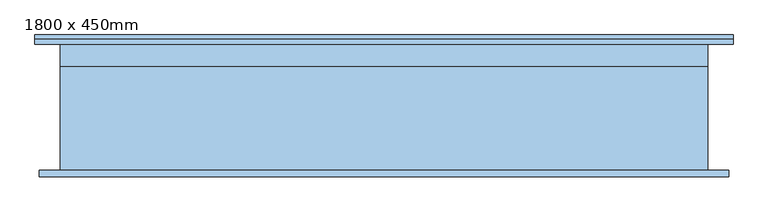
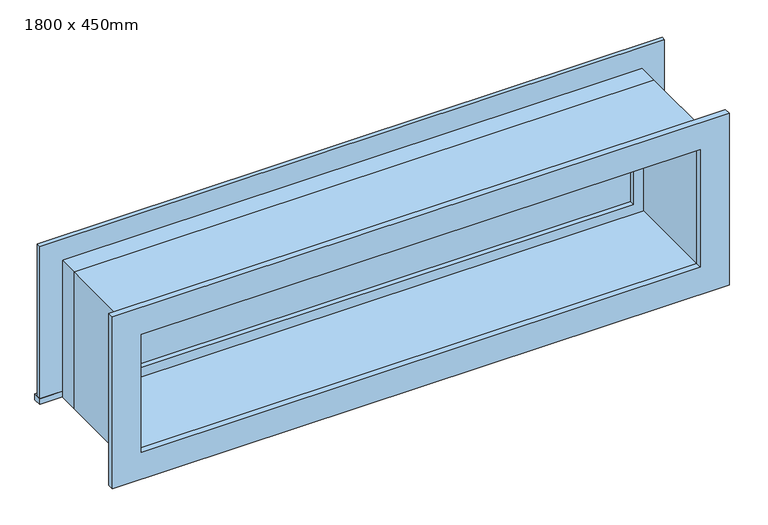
"""IFC4 building model written with IfcOpenShell, lengths in millimetres: window geometry, Podelne : 1800 x 450mm."""

from ifc_helpers import new_model, si_unit, frame, origin, place, context, project, spatial, polyline, outline, extrude, source, transform, mapped, element, save


def window_1800_x_450mm_4e5ac976(model_context):
    return source(origin(), model_context, "Body", "SweptSolid", [
        extrude(outline(polyline([(-1008.05, 200.7), (931.85, 200.7), (931.85, 175.0), (-1008.05, 175.0), (-1008.05, 200.7)])), frame((0.0, 0.0, 2159.0), z_axis=(0.0, 0.0, 1.0), x_axis=(1.0, 0.0, 0.0)), (0.0, 0.0, 1.0), 19.05),
        extrude(outline(polyline([(2589.95, -919.05), (2589.95, 842.85), (2178.05, 842.85), (2178.05, 931.85), (2678.95, 931.85), (2678.95, -1008.05), (2178.05, -1008.05), (2178.05, -919.05), (2589.95, -919.05)])), frame((0.0, 175.0, 0.0), z_axis=(0.0, 1.0, 0.0), x_axis=(0.0, 0.0, 1.0)), (0.0, 0.0, 1.0), 13.0),
        extrude(outline(polyline([(2666.25, 919.15), (2666.25, -995.35), (2101.75, -995.35), (2101.75, 919.15), (2666.25, 919.15)]), holes=[polyline([(2577.25, 830.15), (2190.75, 830.15), (2190.75, -906.35), (2577.25, -906.35), (2577.25, 830.15)])]), frame((0.0, -194.0, 0.0), z_axis=(0.0, 1.0, 0.0), x_axis=(0.0, 0.0, 1.0)), (0.0, 0.0, 1.0), 19.0),
        extrude(outline(polyline([(798.4, 127.425), (-874.6, 127.425), (-874.6, 140.125), (798.4, 140.125), (798.4, 127.425)])), frame((0.0, 0.0, 2222.5), z_axis=(0.0, 0.0, 1.0), x_axis=(1.0, 0.0, 0.0)), (0.0, 0.0, 1.0), 323.0),
        extrude(outline(polyline([(2589.95, -919.05), (2178.05, -919.05), (2178.05, 842.85), (2589.95, 842.85), (2589.95, -919.05)]), holes=[polyline([(2545.5, -874.6), (2545.5, 798.4), (2222.5, 798.4), (2222.5, -874.6), (2545.5, -874.6)])]), frame((0.0, 111.55, 0.0), z_axis=(0.0, 1.0, 0.0), x_axis=(0.0, 0.0, 1.0)), (0.0, 0.0, 1.0), 44.45),
        extrude(outline(polyline([(2609.0, -938.1), (2159.0, -938.1), (2159.0, 861.9), (2609.0, 861.9), (2609.0, -938.1)]), holes=[polyline([(2577.25, -906.35), (2577.25, 830.15), (2190.75, 830.15), (2190.75, -906.35), (2577.25, -906.35)])]), frame((0.0, -175.0, 0.0), z_axis=(0.0, 1.0, 0.0), x_axis=(0.0, 0.0, 1.0)), (0.0, 0.0, 1.0), 286.55),
        extrude(outline(polyline([(2609.0, 861.9), (2609.0, -938.1), (2159.0, -938.1), (2159.0, 861.9), (2609.0, 861.9)]), holes=[polyline([(2589.95, 842.85), (2178.05, 842.85), (2178.05, -919.05), (2589.95, -919.05), (2589.95, 842.85)])]), frame((0.0, 111.55, 0.0), z_axis=(0.0, 1.0, 0.0), x_axis=(0.0, 0.0, 1.0)), (0.0, 0.0, 1.0), 63.45),
    ])


if __name__ == "__main__":
    model = new_model("IFC4")
    model_context = context("Model", 3, world=origin())
    ifc_project = project(units=[si_unit("LENGTHUNIT", "METRE", prefix="MILLI")], contexts=[model_context])
    site = spatial("IfcSite", under=ifc_project)
    building = spatial("IfcBuilding", under=site)
    placement = place(None, origin())
    window_1800_x_450mm_shape = window_1800_x_450mm_4e5ac976(model_context)
    element("IfcWindow", 1, ObjectType="Podelne : 1800 x 450mm", at=placement, inside=building, context=model_context, shape_type="MappedRepresentation", body=[
        mapped(window_1800_x_450mm_shape, transform((0.0, 0.0, 0.0), x_axis=(1.0, 0.0, 0.0), y_axis=(0.0, 1.0, 0.0), z_axis=(0.0, 0.0, 1.0))),
    ])
    save(model, "model.ifc")
